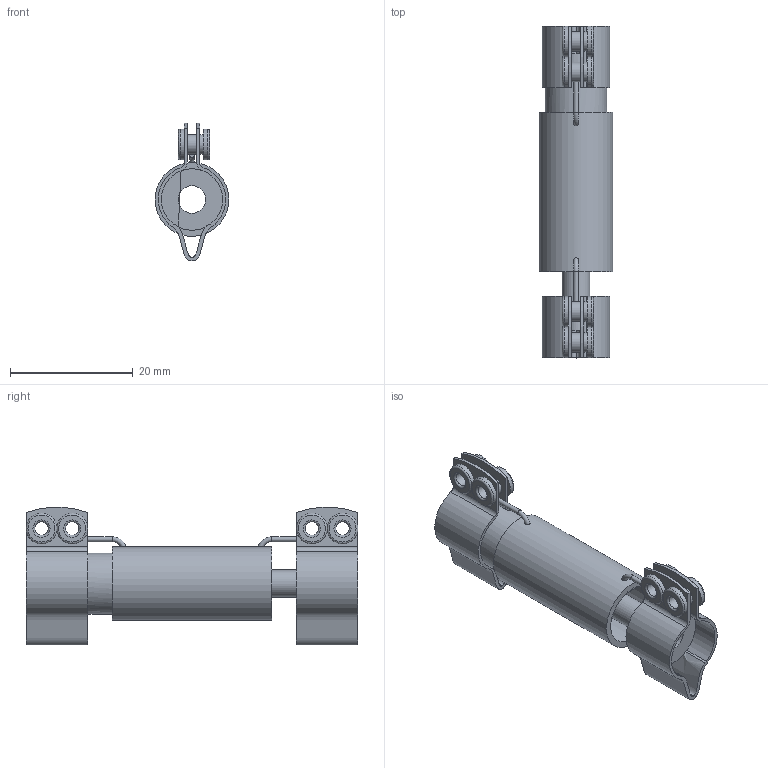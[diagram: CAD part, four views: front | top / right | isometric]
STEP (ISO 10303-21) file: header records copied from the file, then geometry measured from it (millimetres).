
FILE_DESCRIPTION(/* description */ (''),/* implementation_level */ '2;1');
FILE_NAME(/* name */ 'C:\_Vault\Dati\CATALOGO\RC-RS\TF\RS1015.stp',/* time_stamp */ '2014-01-29T13:56:51+01:00',/* author */ ('stefano'),/* organization */ (''),/* preprocessor_version */ 'ST-DEVELOPER v15.2',/* originating_system */ 'Autodesk Inventor 2014',/* authorisation */ '');
FILE_SCHEMA (('AUTOMOTIVE_DESIGN { 1 0 10303 214 3 1 1 }'));
Length unit declared in the file: millimetre
Products named in the file (1): RS1015
Bounding box: 11.99 x 54 x 22.44 mm (x, y, z)
Volume: 3892.3 mm3; surface area: 4478.1 mm2
Topology: 1 solids, 5 shells, 125 faces, 298 edges, 191 vertices
Faces by surface type: cylinder 53, plane 46, torus 18, bspline 8
Full cylindrical faces by diameter (mm): 0.4 x2, 0.8 x4, 2.2 x4, 3.2 x8, 4.5 x1, 5 x8, 10 x3, 12 x1
Entity records: 4049 total; most frequent: CARTESIAN_POINT 1159, DIRECTION 574, ORIENTED_EDGE 492, AXIS2_PLACEMENT_3D 245, EDGE_CURVE 242, EDGE_LOOP 202, VERTEX_POINT 174, CIRCLE 128
